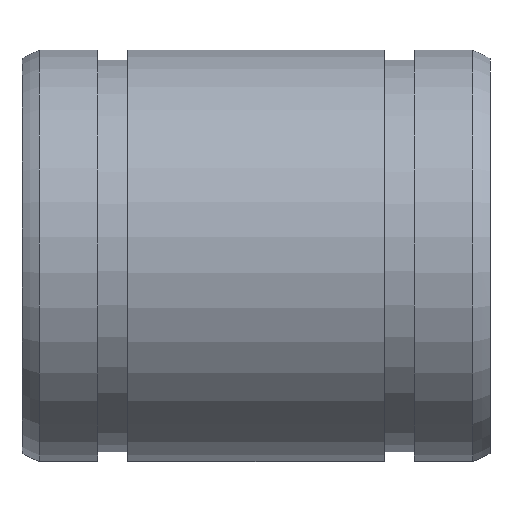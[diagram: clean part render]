
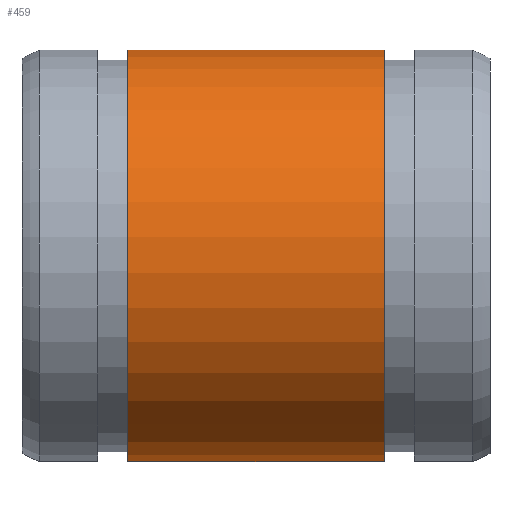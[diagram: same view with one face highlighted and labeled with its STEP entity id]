
A CAD part, front view. The second image highlights one B-rep face of the part: STEP entity #459.
In plain terms, the highlighted cylindrical face has radius 7.5 mm (diameter 15 mm), a partial arc.
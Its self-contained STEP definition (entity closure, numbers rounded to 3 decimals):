
#87=CARTESIAN_POINT('',(3.85,0.75,-7.462));
#88=VERTEX_POINT('',#87);
#95=CARTESIAN_POINT('',(13.15,0.75,-7.462));
#96=VERTEX_POINT('',#95);
#97=CARTESIAN_POINT('',(13.15,0.75,-7.462));
#98=DIRECTION('',(-1.0,0.0,0.0));
#99=VECTOR('',#98,9.3);
#100=LINE('',#97,#99);
#101=EDGE_CURVE('',#96,#88,#100,.T.);
#315=CARTESIAN_POINT('',(13.15,-0.75,-7.462));
#316=VERTEX_POINT('',#315);
#323=CARTESIAN_POINT('',(3.85,-0.75,-7.462));
#324=VERTEX_POINT('',#323);
#325=CARTESIAN_POINT('',(3.85,-0.75,-7.462));
#326=DIRECTION('',(1.0,0.0,0.0));
#327=VECTOR('',#326,9.3);
#328=LINE('',#325,#327);
#329=EDGE_CURVE('',#324,#316,#328,.T.);
#430=CARTESIAN_POINT('',(3.85,0.0,0.));
#431=DIRECTION('',(-1.0,0.0,0.0));
#432=DIRECTION('',(0.0,0.0,1.0));
#433=AXIS2_PLACEMENT_3D('',#430,#431,#432);
#434=CIRCLE('',#433,7.5);
#435=EDGE_CURVE('',#324,#88,#434,.T.);
#442=CARTESIAN_POINT('',(8.5,0.0,0.));
#443=DIRECTION('',(-1.0,0.0,0.0));
#444=DIRECTION('',(0.0,0.0,1.0));
#445=AXIS2_PLACEMENT_3D('',#442,#443,#444);
#446=CYLINDRICAL_SURFACE('',#445,7.5);
#447=ORIENTED_EDGE('',*,*,#329,.T.);
#448=CARTESIAN_POINT('',(13.15,0.0,0.));
#449=DIRECTION('',(-1.0,0.0,0.0));
#450=DIRECTION('',(0.0,0.0,1.0));
#451=AXIS2_PLACEMENT_3D('',#448,#449,#450);
#452=CIRCLE('',#451,7.5);
#453=EDGE_CURVE('',#316,#96,#452,.T.);
#454=ORIENTED_EDGE('',*,*,#453,.T.);
#455=ORIENTED_EDGE('',*,*,#101,.T.);
#456=ORIENTED_EDGE('',*,*,#435,.F.);
#457=EDGE_LOOP('',(#447,#454,#455,#456));
#458=FACE_OUTER_BOUND('',#457,.T.);
#459=ADVANCED_FACE('',(#458),#446,.T.);
